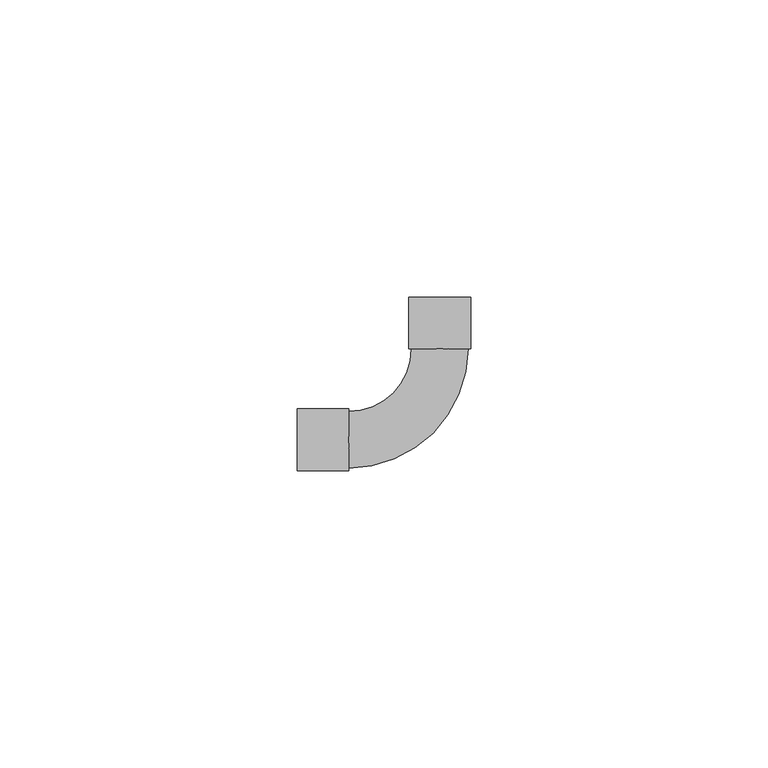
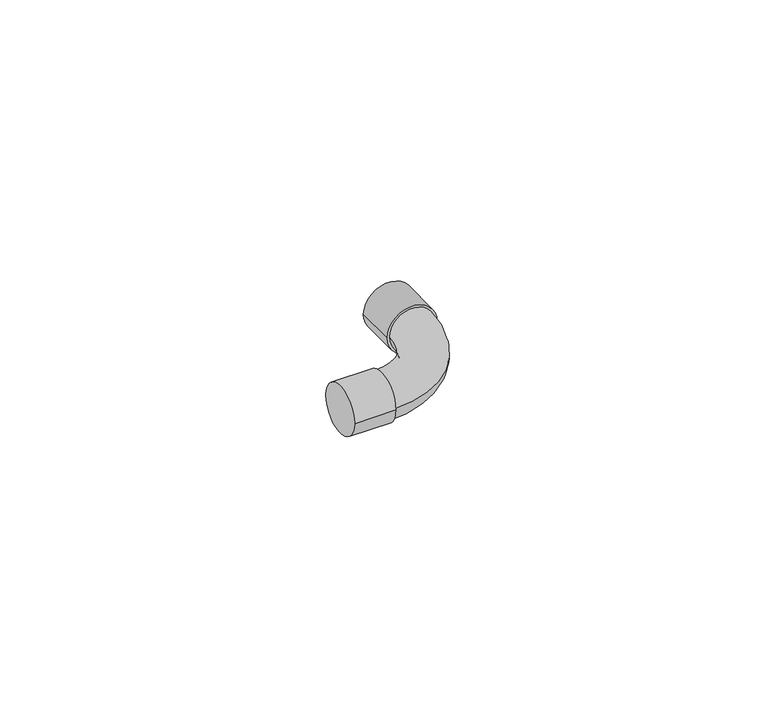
"""IFC4 building model written with IfcOpenShell, lengths in millimetres: pipe fitting geometry, Cotovelo - Soldado - CU : Padrão."""

from ifc_helpers import new_model, si_unit, point, frame, origin, place, context, project, spatial, circle_curve, ellipse_curve, trimmed, source, transform, mapped, element, save
from ifc_brep_helpers import plane_surface, cylinder_surface, revolved_surface, advanced_brep


def pipe_fitting_006aca9c(model_context):
    return source(origin(), model_context, "Body", "AdvancedBrep", [
        advanced_brep(
        [(-4.7603025, 15.3511062, 0.0), (-15.3512, 4.76, 0.0), (-15.3512, -4.76, 0.0), (4.7596975, 15.3512938, 0.0), (-24.0256, -5.2552, 0.0), (-24.0256, 5.2552, 0.0), (-15.3512, -5.2552, 0.0), (-15.3512, 5.2552, 0.0), (-5.2556734, 24.0254965, 0.0), (5.2547266, 24.0257035, 0.0), (-5.2555025, 15.3510965, 0.0), (5.2548975, 15.3513035, 0.0)],
        [
            (0, 1, circle_curve(frame((-15.3512, 15.3508975, 0.0), z_axis=(0.0, 0.0, -1.0), x_axis=(0.0, -1.0, 0.0)), 10.5908975)),
            (1, 2, circle_curve(frame((-15.3512, 0.0, 0.0), z_axis=(1.0, 0.0, 0.0), x_axis=(0.0, 1.0, 0.0)), 4.76)),
            (2, 3, circle_curve(frame((-15.3512, 15.3508975, 0.0), z_axis=(0.0, 0.0, 1.0), x_axis=(0.0, -1.0, 0.0)), 20.1108975)),
            (3, 0, circle_curve(frame((-0.0003025, 15.3512, 0.0), z_axis=(1.970258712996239e-05, -0.999999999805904, 0.0), x_axis=(-0.999999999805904, -1.970258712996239e-05, 0.0)), 4.76)),
            (0, 3, circle_curve(frame((-0.0003025, 15.3512, 0.0), z_axis=(1.970258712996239e-05, -0.999999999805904, 0.0), x_axis=(-0.999999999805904, -1.970258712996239e-05, 0.0)), 4.76)),
            (2, 1, circle_curve(frame((-15.3512, 0.0, 0.0), z_axis=(1.0, 0.0, 0.0), x_axis=(0.0, 1.0, 0.0)), 4.76)),
            (4, 5, circle_curve(frame((-24.0256, 0.0, 0.0), z_axis=(-1.0, 0.0, 0.0), x_axis=(0.0, 1.0, 0.0)), 5.2552)),
            (5, 4, circle_curve(frame((-24.0256, 0.0, 0.0), z_axis=(-1.0, 0.0, 0.0), x_axis=(0.0, 1.0, 0.0)), 5.2552)),
            (6, 7, circle_curve(frame((-15.3512, 0.0, 0.0), z_axis=(1.0, 0.0, 0.0), x_axis=(0.0, 1.0, 0.0)), 5.2552)),
            (7, 6, circle_curve(frame((-15.3512, 0.0, 0.0), z_axis=(1.0, 0.0, 0.0), x_axis=(0.0, 1.0, 0.0)), 5.2552)),
            (4, 6),
            (7, 5),
            (8, 9, circle_curve(frame((-0.0004734, 24.0256, 0.0), z_axis=(-1.970258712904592e-05, 0.999999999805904, 0.0), x_axis=(0.999999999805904, 1.970258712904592e-05, 0.0)), 5.2552)),
            (9, 8, circle_curve(frame((-0.0004734, 24.0256, 0.0), z_axis=(-1.970258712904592e-05, 0.999999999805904, 0.0), x_axis=(0.999999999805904, 1.970258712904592e-05, 0.0)), 5.2552)),
            (10, 11, circle_curve(frame((-0.0003025, 15.3512, 0.0), z_axis=(1.970258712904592e-05, -0.999999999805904, 0.0), x_axis=(0.999999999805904, 1.970258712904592e-05, 0.0)), 5.2552)),
            (11, 10, circle_curve(frame((-0.0003025, 15.3512, 0.0), z_axis=(1.970258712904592e-05, -0.999999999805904, 0.0), x_axis=(0.999999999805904, 1.970258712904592e-05, 0.0)), 5.2552)),
            (8, 10),
            (11, 9),
        ],
        [
            revolved_surface(trimmed(ellipse_curve(frame((-15.3512, 0.0, 0.0), z_axis=(-1.0, 0.0, 0.0), x_axis=(0.0, 1.0, 0.0)), 4.76, 4.76), [point((-15.3512, -4.76, 0.0))], [point((-15.3512, 4.76, 0.0))], True, "CARTESIAN"), (-15.3512, 15.3508975, 0.0), (0.0, 0.0, 1.0)),
            revolved_surface(trimmed(ellipse_curve(frame((-15.3512, 0.0, 0.0), z_axis=(-1.0, 0.0, 0.0), x_axis=(0.0, 1.0, 0.0)), 4.76, 4.76), [point((-15.3512, 4.76, 0.0))], [point((-15.3512, -4.76, 0.0))], True, "CARTESIAN"), (-15.3512, 15.3508975, 0.0), (0.0, 0.0, 1.0)),
            plane_surface(frame((-24.0256, 0.0, 0.0), z_axis=(-1.0, 0.0, 0.0), x_axis=(0.0, 0.0, 1.0))),
            plane_surface(frame((-15.3512, 0.0, 0.0), z_axis=(1.0, 0.0, 0.0), x_axis=(0.0, 0.0, 1.0))),
            cylinder_surface(frame((-24.0256, 0.0, 0.0), z_axis=(-1.0, 0.0, 0.0), x_axis=(0.0, 1.0, 0.0)), 5.2552),
            plane_surface(frame((-0.0004734, 24.0256, 0.0), z_axis=(-1.970258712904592e-05, 0.999999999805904, 0.0), x_axis=(0.0, 0.0, 1.0))),
            plane_surface(frame((-0.0003025, 15.3512, 0.0), z_axis=(1.970258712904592e-05, -0.999999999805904, 0.0), x_axis=(0.0, 0.0, 1.0))),
            cylinder_surface(frame((-0.0004734, 24.0256, 0.0), z_axis=(-1.970258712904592e-05, 0.999999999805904, 0.0), x_axis=(0.999999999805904, 1.970258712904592e-05, 0.0)), 5.2552),
        ],
        [
            (0, [[1, 2, 3, 4]]),
            (1, [[-1, 5, -3, 6]]),
            (2, [[7, 8]]),
            (3, [[9, 10], [-2, -6]]),
            (4, [[-7, 11, -10, 12]]),
            (4, [[-8, -12, -9, -11]]),
            (5, [[13, 14]]),
            (6, [[15, 16], [-4, -5]]),
            (7, [[-13, 17, -16, 18]]),
            (7, [[-14, -18, -15, -17]]),
        ],
    ),
    ])


if __name__ == "__main__":
    model = new_model("IFC4")
    model_context = context("Model", 3, world=origin())
    ifc_project = project(units=[si_unit("LENGTHUNIT", "METRE", prefix="MILLI")], contexts=[model_context])
    site = spatial("IfcSite", under=ifc_project)
    building = spatial("IfcBuilding", under=site)
    placement = place(None, origin())
    pipe_fitting_shape = pipe_fitting_006aca9c(model_context)
    element("IfcPipeFitting", 1, ObjectType="Cotovelo - Soldado - CU : Padrão", at=placement, inside=building, context=model_context, shape_type="MappedRepresentation", body=[
        mapped(pipe_fitting_shape, transform((0.0, 0.0, 0.0), x_axis=(1.0, 0.0, 0.0), y_axis=(0.0, 1.0, 0.0), z_axis=(0.0, 0.0, 1.0))),
    ])
    save(model, "model.ifc")
